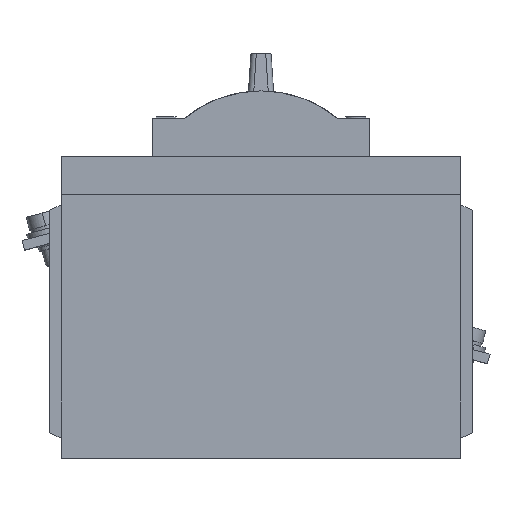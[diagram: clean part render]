
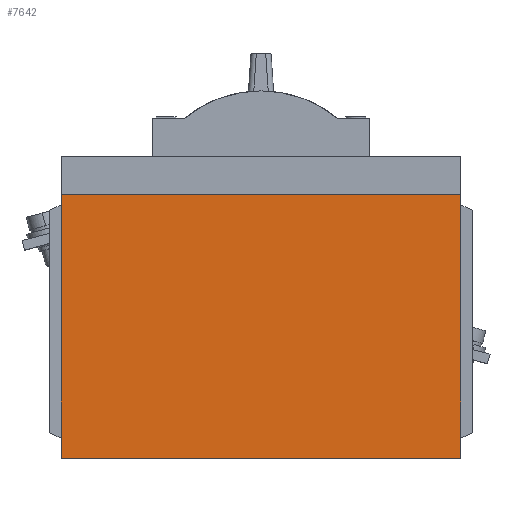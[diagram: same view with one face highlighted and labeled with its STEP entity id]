
A CAD part, top view. The second image highlights one B-rep face of the part: STEP entity #7642.
In plain terms, the highlighted planar face has unit normal (0, 0, 1).
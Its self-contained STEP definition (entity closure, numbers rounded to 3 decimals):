
#508 = DIRECTION ( 'NONE',  ( 1., 0., 0. ) ) ;
#509 = VECTOR ( 'NONE', #508, 1000. ) ;
#510 = CARTESIAN_POINT ( 'NONE',  ( 72.008, -36.437, 30. ) ) ;
#511 = LINE ( 'NONE', #510, #509 ) ;
#512 = CARTESIAN_POINT ( 'NONE',  ( -47.992, -36.437, 30. ) ) ;
#513 = DIRECTION ( 'NONE',  ( 0., -1., 0. ) ) ;
#514 = VECTOR ( 'NONE', #513, 1000. ) ;
#515 = CARTESIAN_POINT ( 'NONE',  ( -47.992, 42.563, 30. ) ) ;
#516 = LINE ( 'NONE', #515, #514 ) ;
#652 = CARTESIAN_POINT ( 'NONE',  ( 72.008, 42.563, 30. ) ) ;
#653 = CARTESIAN_POINT ( 'NONE',  ( 72.008, -36.437, 30. ) ) ;
#654 = DIRECTION ( 'NONE',  ( 0., 1., 0. ) ) ;
#655 = VECTOR ( 'NONE', #654, 1000. ) ;
#656 = CARTESIAN_POINT ( 'NONE',  ( 72.008, 42.563, 30. ) ) ;
#657 = LINE ( 'NONE', #656, #655 ) ;
#674 = DIRECTION ( 'NONE',  ( -1., 0., 0. ) ) ;
#675 = DIRECTION ( 'NONE',  ( 0., 0., -1. ) ) ;
#676 = CARTESIAN_POINT ( 'NONE',  ( 72.008, -36.437, 30. ) ) ;
#677 = AXIS2_PLACEMENT_3D ( 'NONE', #676, #675, #674 ) ;
#679 = PLANE ( 'NONE',  #677 ) ;
#745 = FACE_OUTER_BOUND ( 'NONE', #7621, .T. ) ;
#806 = CARTESIAN_POINT ( 'NONE',  ( -47.992, 42.563, 30. ) ) ;
#807 = DIRECTION ( 'NONE',  ( -1., 0., 0. ) ) ;
#808 = VECTOR ( 'NONE', #807, 1000. ) ;
#809 = CARTESIAN_POINT ( 'NONE',  ( 72.008, 42.563, 30. ) ) ;
#810 = LINE ( 'NONE', #809, #808 ) ;
#7560 = ORIENTED_EDGE ( 'NONE', *, *, #7561, .T. ) ;
#7561 = EDGE_CURVE ( 'NONE', #7667, #7562, #516, .T. ) ;
#7562 = VERTEX_POINT ( 'NONE', #512 ) ;
#7563 = ORIENTED_EDGE ( 'NONE', *, *, #7564, .T. ) ;
#7564 = EDGE_CURVE ( 'NONE', #7562, #7625, #511, .T. ) ;
#7621 = EDGE_LOOP ( 'NONE', ( #7643, #7665, #7560, #7563 ) ) ;
#7624 = EDGE_CURVE ( 'NONE', #7625, #7626, #657, .T. ) ;
#7625 = VERTEX_POINT ( 'NONE', #653 ) ;
#7626 = VERTEX_POINT ( 'NONE', #652 ) ;
#7642 = ADVANCED_FACE ( 'NONE', ( #745 ), #679, .F. ) ;
#7643 = ORIENTED_EDGE ( 'NONE', *, *, #7624, .T. ) ;
#7665 = ORIENTED_EDGE ( 'NONE', *, *, #7666, .T. ) ;
#7666 = EDGE_CURVE ( 'NONE', #7626, #7667, #810, .T. ) ;
#7667 = VERTEX_POINT ( 'NONE', #806 ) ;
